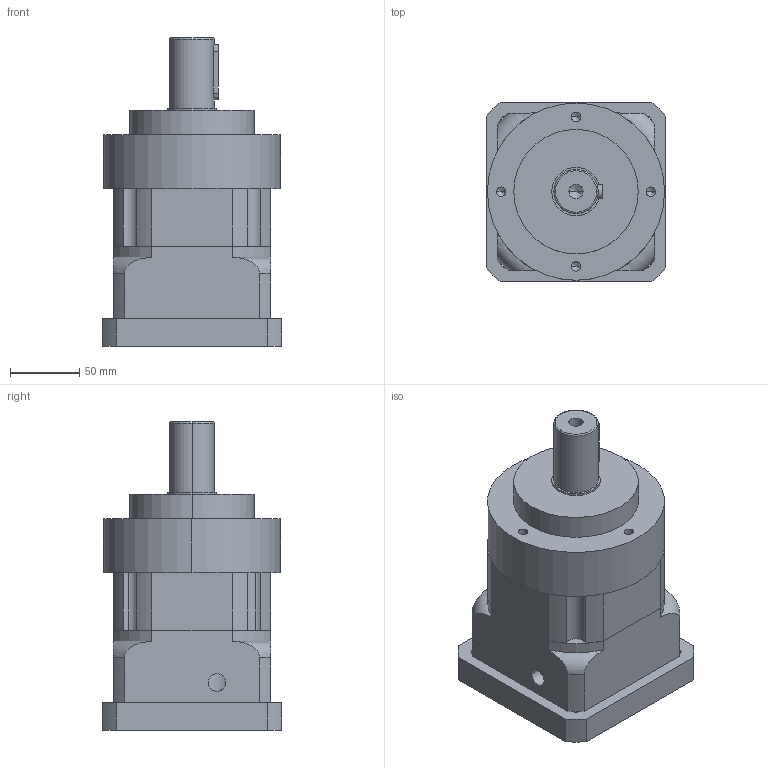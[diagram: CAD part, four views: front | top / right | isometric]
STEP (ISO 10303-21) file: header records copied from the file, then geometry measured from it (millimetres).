
FILE_DESCRIPTION (( 'STEP AP214' ), '1' );
FILE_NAME ('DML120-L1-XX-22-110-145-M8_2019.STEP', '2019-09-24T09:45:24', ( 'Y' ), ( 'NCU' ), 'SwSTEP 2.0', 'SolidWorks 2016', '' );
FILE_SCHEMA (( 'AUTOMOTIVE_DESIGN' ));
Length unit declared in the file: millimetre
Products named in the file (1): DML120-L1-XX-22-110-145-M8_2019
Bounding box: 130 x 130 x 223 mm (x, y, z)
Volume: 1930317.9 mm3; surface area: 207625.3 mm2
Topology: 3 solids, 7 shells, 268 faces, 623 edges, 394 vertices
Faces by surface type: cylinder 137, plane 99, cone 26, torus 6
Entity records: 9627 total; most frequent: CARTESIAN_POINT 1728, DIRECTION 1422, ORIENTED_EDGE 1210, EDGE_CURVE 605, AXIS2_PLACEMENT_3D 564, VERTEX_POINT 394, EDGE_LOOP 323, CIRCLE 295
